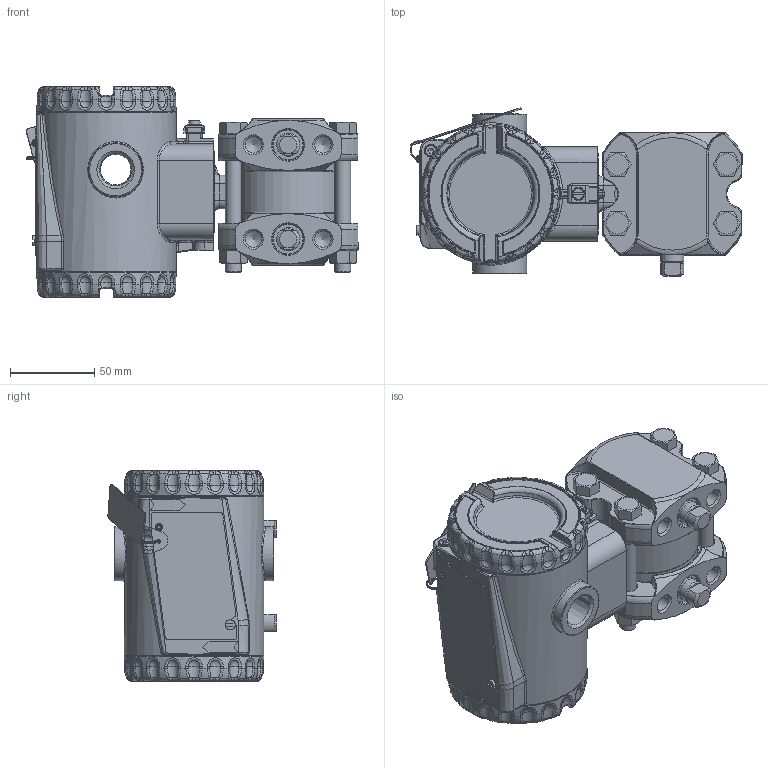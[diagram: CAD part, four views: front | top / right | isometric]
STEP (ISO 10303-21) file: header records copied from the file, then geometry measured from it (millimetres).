
FILE_DESCRIPTION(/* description */ (''),/* implementation_level */ '2;1');
FILE_NAME(/* name */ 'F:\Area\Desenvolvimento_2\Projects\Sensor\projetos\LD400-3d\dimensionais 3D clientes\LD400D4 1-4NPT monel sem purga.stp',/* time_stamp */ '2023-02-02T10:51:08-03:00',/* author */ ('inventor02'),/* organization */ (''),/* preprocessor_version */ 'ST-DEVELOPER v17',/* originating_system */ 'Autodesk Inventor 2019',/* authorisation */ '');
FILE_SCHEMA (('CONFIG_CONTROL_DESIGN'));
Products named in the file (28): LD400D4 1-4NPT monel sem purga; Carcaça 400 com tampas e plaqueta sem letras; 101-D-0845-05 carcaça LD400 sem letras; 101-B-3614-03-tampa 400 sem letras; Tampa visor 400 montada sem letras; 101-B-3612-05 tampa visor 400 sem letras; 101-A-6107; oring 2034; 00034775-0; WHW_250; DIN 915 - M6 x 10; Chapa aterramento externo; 201-A-1771-02 inserto terra recartilhado; AS 1969 - ST4,2; ISO 1207 - M4 x 8; ANSI B18.3.1M - M4x0,7 x 8; Subconjunto plaqueta 400; plaqueta 400 em branco; Parafuso da Plaqueta; Rebite da Plaqueta; 096-A-0169-03; 101-A-0502-01; diferencial FX4 monel sem purga; involucro fx4 apos a usinagem final; bujao 1-4NPT; 101-C-0040-05 monel barra 7-16; Paraf. 3-8 x 16 UNC; Porca 3-8 x 16 UNC
Assembly tree (36 placements, depth 4):
  LD400D4 1-4NPT monel sem purga
    Carcaça 400 com tampas e plaqueta sem letras
      101-D-0845-05 carcaça LD400 sem letras
      101-B-3614-03-tampa 400 sem letras
      Tampa visor 400 montada sem letras
        101-B-3612-05 tampa visor 400 sem letras
        101-A-6107
        oring 2034
        00034775-0
        WHW_250
      DIN 915 - M6 x 10
      Chapa aterramento externo
      201-A-1771-02 inserto terra recartilhado
      AS 1969 - ST4,2
      ISO 1207 - M4 x 8
      ANSI B18.3.1M - M4x0,7 x 8  x2
      Subconjunto plaqueta 400
        plaqueta 400 em branco
        Parafuso da Plaqueta
        Rebite da Plaqueta
        096-A-0169-03
        101-A-0502-01
    diferencial FX4 monel sem purga
      involucro fx4 apos a usinagem final
      bujao 1-4NPT  x2
      101-C-0040-05 monel barra 7-16  x2
      Paraf. 3-8 x 16 UNC  x4
      Porca 3-8 x 16 UNC  x4
Bounding box: 197.25 x 99.89 x 125 mm (x, y, z)
Volume: 665775.5 mm3; surface area: 238787.5 mm2
Topology: 32 solids, 32 shells, 2251 faces, 5527 edges, 3333 vertices
Faces by surface type: plane 601, bspline 527, cylinder 491, torus 352, cone 227, sphere 53
Full cylindrical faces by diameter (mm): 2 x2, 2.1 x1, 2.2 x1, 2.459 x3, 2.7 x1, 3 x1, 3.242 x3, 3.571 x1, 4 x4, 4.3 x2, 4.4 x1, 4.917 x1, 5 x4, 6 x2, 6.1 x2, 6.2 x1, 7 x2, 7.6 x2, 7.798 x4, 9.525 x4, 9.728 x8, 10.5 x8, 10.719 x4, 12 x2, 13.8 x2, 14 x1, 18.3 x2, 18.5 x4, 26 x2, 32 x2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
Entity records: 74842 total; most frequent: CARTESIAN_POINT 30275, ORIENTED_EDGE 9360, DIRECTION 8880, EDGE_CURVE 4680, AXIS2_PLACEMENT_3D 3736, VERTEX_POINT 2830, CIRCLE 2145, EDGE_LOOP 2020
